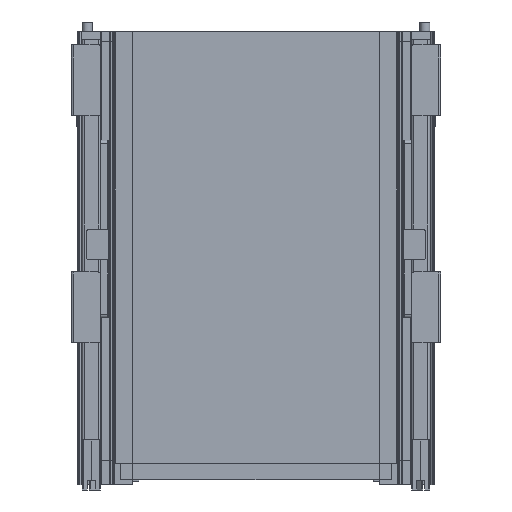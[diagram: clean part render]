
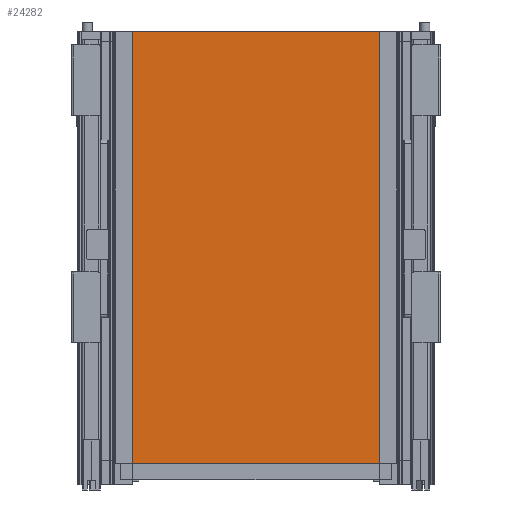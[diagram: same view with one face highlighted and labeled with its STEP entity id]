
A CAD part, front view. The second image highlights one B-rep face of the part: STEP entity #24282.
In plain terms, the highlighted planar face has unit normal (0, -1, 0).
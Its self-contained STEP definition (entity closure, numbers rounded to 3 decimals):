
#1553=PLANE('',#26514);
#2788=FACE_OUTER_BOUND('',#4238,.T.);
#4238=EDGE_LOOP('',(#21763,#21764,#21765,#21766));
#7487=LINE('',#39990,#9801);
#7491=LINE('',#39998,#9805);
#7494=LINE('',#40004,#9808);
#7497=LINE('',#40009,#9811);
#9801=VECTOR('',#33236,426.);
#9805=VECTOR('',#33242,278.);
#9808=VECTOR('',#33247,426.);
#9811=VECTOR('',#33252,278.);
#11953=VERTEX_POINT('',#39988);
#11954=VERTEX_POINT('',#39989);
#11957=VERTEX_POINT('',#39997);
#11959=VERTEX_POINT('',#40003);
#15219=EDGE_CURVE('',#11953,#11954,#7487,.T.);
#15223=EDGE_CURVE('',#11954,#11957,#7491,.T.);
#15226=EDGE_CURVE('',#11957,#11959,#7494,.T.);
#15229=EDGE_CURVE('',#11959,#11953,#7497,.T.);
#21763=ORIENTED_EDGE('',*,*,#15229,.T.);
#21764=ORIENTED_EDGE('',*,*,#15219,.T.);
#21765=ORIENTED_EDGE('',*,*,#15223,.T.);
#21766=ORIENTED_EDGE('',*,*,#15226,.T.);
#24282=ADVANCED_FACE('',(#2788),#1553,.T.);
#26514=AXIS2_PLACEMENT_3D('',#40011,#33254,#33255);
#33236=DIRECTION('',(0.,0.,-1.));
#33242=DIRECTION('',(1.,0.,0.));
#33247=DIRECTION('',(0.,0.,1.));
#33252=DIRECTION('',(-1.,0.,0.));
#33254=DIRECTION('center_axis',(0.,-1.,0.));
#33255=DIRECTION('ref_axis',(0.,0.,-1.));
#39988=CARTESIAN_POINT('',(-139.,0.,213.));
#39989=CARTESIAN_POINT('',(-139.,0.,-213.));
#39990=CARTESIAN_POINT('',(-139.,0.,213.));
#39997=CARTESIAN_POINT('',(139.,0.,-213.));
#39998=CARTESIAN_POINT('',(-139.,0.,-213.));
#40003=CARTESIAN_POINT('',(139.,0.,213.));
#40004=CARTESIAN_POINT('',(139.,0.,-213.));
#40009=CARTESIAN_POINT('',(139.,0.,213.));
#40011=CARTESIAN_POINT('Origin',(0.,0.,0.));
